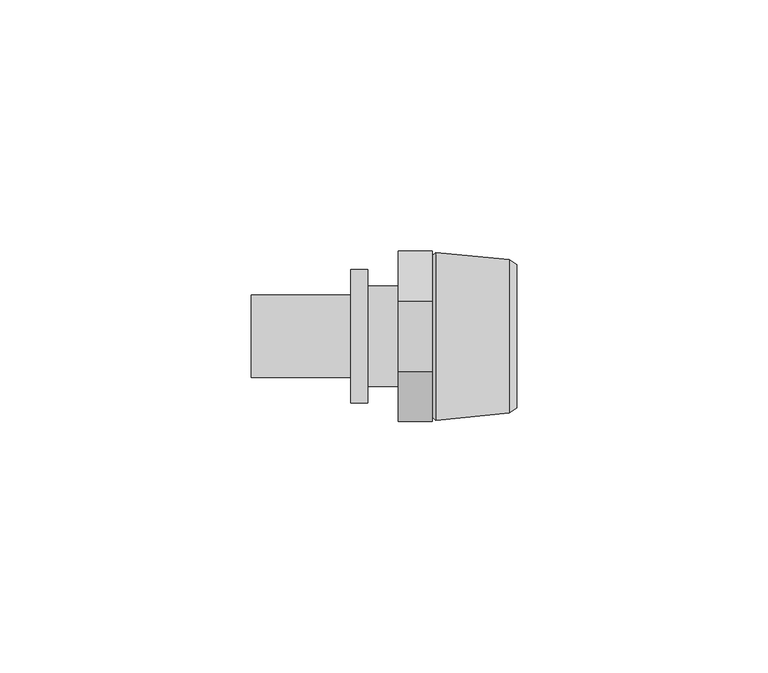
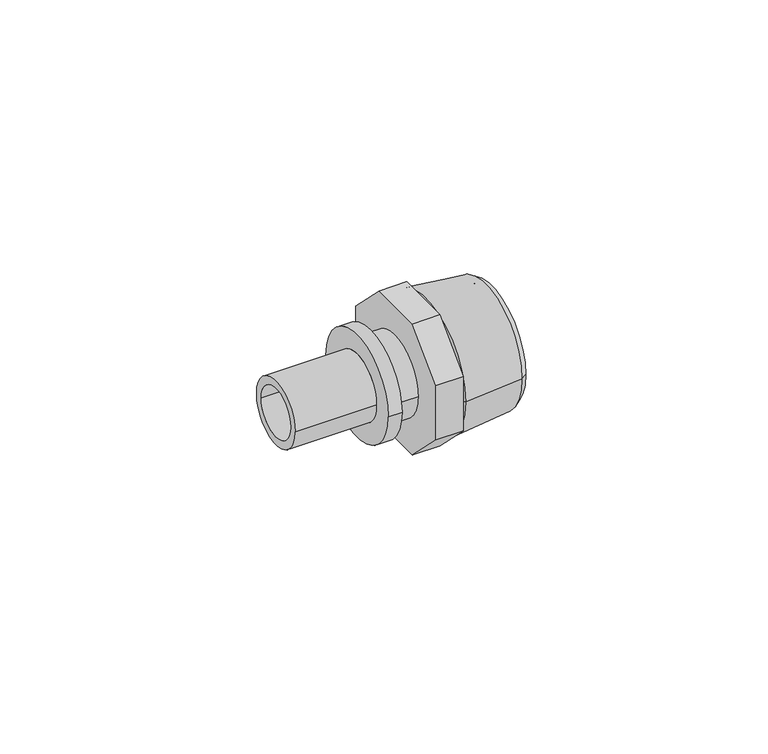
"""IFC4 building model written with IfcOpenShell, lengths in millimetres: pipe fitting geometry, REHAU_RAUTITAN_Adaptor_RX+, with external thread : REHAU_RAUTITAN_Adaptor_RX+, with external thread."""

import ifcopenshell
import ifcopenshell.guid

model = None  # the IFC model being written
_history = None  # IfcOwnerHistory: only IFC2X3 demands one
_inside = {}  # id of a spatial element -> (the spatial element, [elements in it])
_under = {}  # id of a project, library or spatial element -> (it, [spatial elements below it])
_declared = {}  # id of a project -> (the project, [libraries it declares])
_typed = {}  # id of a type object -> (the type object, [elements of that type])
_made_of = {}  # id of a material, layer set ... -> (it, [elements and type objects made of it])


def new_model(schema):
    """Start an empty IFC model of exactly this schema.

    Asked for "IFC4X3", IfcOpenShell would pick the latest addendum, in which some entities
    have other attributes; the version numbers below select the first issue.
    IFC2X3 requires an IfcOwnerHistory on every rooted entity: one is made here for all.
    """
    global model, _history
    if schema == "IFC4X3":
        model = ifcopenshell.file(schema_version=(4, 3, 0, 0))
    else:
        model = ifcopenshell.file(schema=schema)
    _inside.clear()
    _under.clear()
    _declared.clear()
    _typed.clear()
    _made_of.clear()
    _history = None
    if model.schema == "IFC2X3":
        org = make("IfcOrganization", Name="unknown")
        user = make(
            "IfcPersonAndOrganization",
            ThePerson=make("IfcPerson", FamilyName="unknown"),
            TheOrganization=org,
        )
        app = make(
            "IfcApplication",
            ApplicationDeveloper=org,
            Version="unknown",
            ApplicationFullName="unknown",
            ApplicationIdentifier="unknown",
        )
        _history = make(
            "IfcOwnerHistory",
            OwningUser=user,
            OwningApplication=app,
            ChangeAction="ADDED",
            CreationDate=0,
        )
    return model


def make(cls, **values):
    """One entity of the class cls with the attributes given. An attribute that is None is left unset."""
    return model.create_entity(
        cls, **{name: value for name, value in values.items() if value is not None}
    )


def rooted(cls, **values):
    """An entity with a GlobalId (a new one), such as an element, a storey or a relation."""
    return make(cls, GlobalId=ifcopenshell.guid.new(), OwnerHistory=_history, **values)


def si_unit(unit_type, name, prefix=None):
    """IfcSIUnit, for example si_unit("LENGTHUNIT", "METRE", prefix="MILLI")."""
    return make("IfcSIUnit", UnitType=unit_type, Prefix=prefix, Name=name)


def assignment(units):
    """IfcUnitAssignment: the units of a project."""
    return None if units is None else make("IfcUnitAssignment", Units=units)


def point(xyz):
    """IfcCartesianPoint."""
    return None if xyz is None else make("IfcCartesianPoint", Coordinates=xyz)


def direction(xyz):
    """IfcDirection."""
    return None if xyz is None else make("IfcDirection", DirectionRatios=xyz)


def frame(location, z_axis=None, x_axis=None):
    """IfcAxis2Placement3D, a coordinate frame: its origin and axes. An axis left out is left unset."""
    return make(
        "IfcAxis2Placement3D",
        Location=point(location),
        Axis=direction(z_axis),
        RefDirection=direction(x_axis),
    )


def frame_2d(location, x_axis=None):
    """IfcAxis2Placement2D, a coordinate frame in the plane: its origin and x axis."""
    return make(
        "IfcAxis2Placement2D", Location=point(location), RefDirection=direction(x_axis)
    )


def origin():
    """The frame at (0, 0, 0) with its axes left unset."""
    return frame((0.0, 0.0, 0.0))


def origin_2d():
    """The frame at (0, 0) in the plane with its x axis left unset."""
    return frame_2d((0.0, 0.0))


def place(relative_to, where):
    """IfcLocalPlacement: puts the frame where relative to a parent placement (None: the world)."""
    return make(
        "IfcLocalPlacement", PlacementRelTo=relative_to, RelativePlacement=where
    )


def context(
    kind, dimensions, precision=None, world=None, true_north=None, identifier=None
):
    """IfcGeometricRepresentationContext, for example the 3D "Model" context."""
    return make(
        "IfcGeometricRepresentationContext",
        ContextIdentifier=identifier,
        ContextType=kind,
        CoordinateSpaceDimension=dimensions,
        Precision=precision,
        WorldCoordinateSystem=world,
        TrueNorth=true_north,
    )


def project(units=None, contexts=None):
    """IfcProject with its units and contexts."""
    return rooted(
        "IfcProject",
        Name="project",
        RepresentationContexts=contexts,
        UnitsInContext=assignment(units),
    )


def spatial(cls, under=None, at=None, **own):
    """A site, building, storey or space (cls), placed at a placement, below another one or the project."""
    s = rooted(cls, ObjectPlacement=at, **own)
    if under is not None:
        _under.setdefault(under.id(), (under, []))[1].append(s)
    return s


def polyline(points):
    """IfcPolyline through the points."""
    return make("IfcPolyline", Points=[point(p) for p in points])


def circle_curve(where, radius):
    """IfcCircle in the frame where."""
    return make("IfcCircle", Position=where, Radius=radius)


def trimmed(basis, trim1, trim2, sense, master):
    """IfcTrimmedCurve: the piece of a basis curve between two trims."""
    return make(
        "IfcTrimmedCurve",
        BasisCurve=basis,
        Trim1=trim1,
        Trim2=trim2,
        SenseAgreement=sense,
        MasterRepresentation=master,
    )


def segment(curve, same_sense, transition):
    """IfcCompositeCurveSegment."""
    return make(
        "IfcCompositeCurveSegment",
        Transition=transition,
        SameSense=same_sense,
        ParentCurve=curve,
    )


def composite_curve(segments, self_intersect=None):
    """IfcCompositeCurve: segments joined end to end."""
    return make("IfcCompositeCurve", Segments=segments, SelfIntersect=self_intersect)


def outline(outer, holes=None, kind="AREA"):
    """IfcArbitraryClosedProfileDef: a profile drawn as a closed curve; with holes, ...WithVoids."""
    if holes is None:
        return make("IfcArbitraryClosedProfileDef", ProfileType=kind, OuterCurve=outer)
    return make(
        "IfcArbitraryProfileDefWithVoids",
        ProfileType=kind,
        OuterCurve=outer,
        InnerCurves=holes,
    )


def extrude(swept, where, along, depth):
    """IfcExtrudedAreaSolid: the profile swept, set in the frame where, extruded along a direction by depth."""
    return make(
        "IfcExtrudedAreaSolid",
        SweptArea=swept,
        Position=where,
        ExtrudedDirection=direction(along),
        Depth=depth,
    )


def shape(context_of_items, identifier, shape_type, items):
    """IfcShapeRepresentation: the items that make up one representation, for example the "Body"."""
    return make(
        "IfcShapeRepresentation",
        ContextOfItems=context_of_items,
        RepresentationIdentifier=identifier,
        RepresentationType=shape_type,
        Items=items,
    )


def source(mapping_origin, context_of_items, identifier, shape_type, items):
    """IfcRepresentationMap: a shape defined once, which mapped items show again and again."""
    return make(
        "IfcRepresentationMap",
        MappingOrigin=mapping_origin,
        MappedRepresentation=shape(context_of_items, identifier, shape_type, items),
    )


def transform(
    local_origin,
    x_axis=None,
    y_axis=None,
    z_axis=None,
    scale=None,
    scale2=None,
    scale3=None,
    uniform=True,
):
    """IfcCartesianTransformationOperator3D, or its non-uniform kind. x_axis, y_axis, z_axis: its Axis1, 2, 3."""
    if uniform:
        return make(
            "IfcCartesianTransformationOperator3D",
            Axis1=direction(x_axis),
            Axis2=direction(y_axis),
            LocalOrigin=point(local_origin),
            Scale=scale,
            Axis3=direction(z_axis),
        )
    return make(
        "IfcCartesianTransformationOperator3DnonUniform",
        Axis1=direction(x_axis),
        Axis2=direction(y_axis),
        LocalOrigin=point(local_origin),
        Scale=scale,
        Axis3=direction(z_axis),
        Scale2=scale2,
        Scale3=scale3,
    )


def mapped(mapping_source, mapping_target):
    """IfcMappedItem: shows the shape of a source again, moved by a transform."""
    return make(
        "IfcMappedItem", MappingSource=mapping_source, MappingTarget=mapping_target
    )


def made_of(thing, what):
    """Note that an element or type object is made of a material, layer set ...; save() writes the relation."""
    if what is not None:
        _made_of.setdefault(what.id(), (what, []))[1].append(thing)
    return thing


def element(
    cls,
    number,
    at=None,
    inside=None,
    cuts=None,
    type_object=None,
    material=None,
    context=None,
    identifier="Body",
    shape_type=None,
    held_by="IfcProductDefinitionShape",
    body=None,
    shapes=None,
    **own,
):
    """One element of the class cls, such as IfcWall. Its Tag is "e" and its number.

    at: its placement. inside: the storey or other place that contains it. cuts: it is an
    opening in that element (IfcRelVoidsElement). A single representation is given by context,
    identifier, shape_type and body (its items); several are given by shapes. held_by: the class
    of the entity that holds the representations. save() writes the other relations.
    """
    e = rooted(cls, Tag="e%d" % number, ObjectPlacement=at, **own)
    if body is not None:
        shapes = [shape(context, identifier, shape_type, body)]
    if shapes is not None:
        e.Representation = make(held_by, Representations=shapes)
    if inside is not None:
        _inside.setdefault(inside.id(), (inside, []))[1].append(e)
    if cuts is not None:
        rooted(
            "IfcRelVoidsElement", RelatingBuildingElement=cuts, RelatedOpeningElement=e
        )
    if type_object is not None:
        _typed.setdefault(type_object.id(), (type_object, []))[1].append(e)
    return made_of(e, material)


def aggregate(whole, parts):
    """IfcRelAggregates: a whole, such as a stair, and the parts it consists of."""
    return rooted("IfcRelAggregates", RelatingObject=whole, RelatedObjects=parts)


def save(model, path):
    """Write the relations noted so far, then the file.

    IfcRelAggregates (storeys below a building ...), IfcRelContainedInSpatialStructure (elements
    in a storey), IfcRelDefinesByType, IfcRelAssociatesMaterial and IfcRelDeclares: one each for
    every whole, place, type object, material and project.
    """
    for whole, parts in _under.values():
        aggregate(whole, parts)
    for where, things in _inside.values():
        rooted(
            "IfcRelContainedInSpatialStructure",
            RelatedElements=things,
            RelatingStructure=where,
        )
    for kind, things in _typed.values():
        rooted("IfcRelDefinesByType", RelatedObjects=things, RelatingType=kind)
    for what, things in _made_of.values():
        rooted("IfcRelAssociatesMaterial", RelatedObjects=things, RelatingMaterial=what)
    for by, libraries in _declared.values():
        rooted("IfcRelDeclares", RelatingContext=by, RelatedDefinitions=libraries)
    model.write(path)


def plane_surface(at):
    """IfcPlane: the flat surface through the origin of the frame at, square to its z axis."""
    return make("IfcPlane", Position=at)


def cylinder_surface(at, radius):
    """IfcCylindricalSurface: all points at the distance radius from the z axis of the frame at."""
    return make("IfcCylindricalSurface", Position=at, Radius=radius)


def revolved_surface(curve, axis_point, axis_direction):
    """IfcSurfaceOfRevolution: the curve turned about the line through axis_point along axis_direction."""
    return make(
        "IfcSurfaceOfRevolution",
        SweptCurve=make("IfcArbitraryOpenProfileDef", ProfileType="CURVE", Curve=curve),
        AxisPosition=make("IfcAxis1Placement", Location=point(axis_point), Axis=direction(axis_direction)),
    )


def advanced_brep(points, edges, surfaces, faces):
    """IfcAdvancedBrep: a solid bounded by faces that lie on surfaces and meet in shared edges.

    An edge is (start, end): straight between two places in points (the first is 0);
    or (start, end, curve); or (start, end, curve, False) where it runs against its curve.
    A face is (place in surfaces, loops), or (place, loops, False) where it looks against
    its surface's normal. A loop lists edges by number (the first is 1), with a minus sign
    where the edge is run from its end to its start. The first loop is the outer one.
    """
    corners = [point(p) for p in points]
    vertices = [make("IfcVertexPoint", VertexGeometry=c) for c in corners]
    made = []
    for start, end, *more in edges:
        made.append(
            make(
                "IfcEdgeCurve",
                EdgeStart=vertices[start],
                EdgeEnd=vertices[end],
                EdgeGeometry=more[0] if more else make("IfcPolyline", Points=[corners[start], corners[end]]),
                SameSense=more[1] if len(more) > 1 else True,
            )
        )
    hull = []
    for where, loops, *sense in faces:
        bounds = []
        for j, loop in enumerate(loops):
            ring = [make("IfcOrientedEdge", EdgeElement=made[abs(k) - 1], Orientation=k > 0) for k in loop]
            bounds.append(
                make(
                    "IfcFaceOuterBound" if j == 0 else "IfcFaceBound",
                    Bound=make("IfcEdgeLoop", EdgeList=ring),
                    Orientation=True,
                )
            )
        hull.append(make("IfcAdvancedFace", Bounds=bounds, FaceSurface=surfaces[where], SameSense=sense[0] if sense else True))
    return make("IfcAdvancedBrep", Outer=make("IfcClosedShell", CfsFaces=hull))


def pipe_fitting_12e4655d(model_context):
    return source(origin(), model_context, "Body", "SolidModel", [
        advanced_brep(
        [(7.8632803, 12.75, 0.0), (7.8632803, -12.75, 0.0), (23.6, -12.75, 0.0), (23.6, 12.75, 0.0), (6.76, 11.6467197, 0.0), (6.76, -11.6467197, 0.0), (7.5006902, 16.715, 0.0), (7.5006902, -16.715, 0.0), (6.76, -16.1, 0.0), (6.76, 16.1, 0.0), (22.1000007, 15.275, 0.0), (22.1000007, -15.275, 0.0), (23.6, 14.3, 0.0), (23.6, -14.3, 0.0)],
        [
            (0, 1, circle_curve(frame((7.8632803, 0.0, 0.0), z_axis=(-1.0, 0.0, 0.0), x_axis=(0.0, -1.0, 0.0)), 12.75)),
            (1, 2),
            (2, 3, circle_curve(frame((23.6, 0.0, 0.0), z_axis=(1.0, 0.0, 0.0), x_axis=(0.0, -1.0, 0.0)), 12.75)),
            (3, 0),
            (4, 5, circle_curve(frame((6.76, 0.0, 0.0), z_axis=(-1.0, 0.0, 0.0), x_axis=(0.0, -1.0, 0.0)), 11.6467197)),
            (5, 1),
            (0, 4),
            (6, 7, circle_curve(frame((7.5006902, 0.0, 0.0), z_axis=(-1.0, 0.0, 0.0), x_axis=(0.0, -1.0, 0.0)), 16.715)),
            (7, 8),
            (8, 9, circle_curve(frame((6.76, 0.0, 0.0), z_axis=(1.0, 0.0, 0.0), x_axis=(0.0, -1.0, 0.0)), 16.1)),
            (9, 6),
            (10, 11, circle_curve(frame((22.1000007, 0.0, 0.0), z_axis=(-1.0, 0.0, 0.0), x_axis=(0.0, -1.0, 0.0)), 15.275)),
            (11, 7),
            (6, 10),
            (12, 13, circle_curve(frame((23.6, 0.0, 0.0), z_axis=(-1.0, 0.0, 0.0), x_axis=(0.0, -1.0, 0.0)), 14.3)),
            (13, 11),
            (10, 12),
            (1, 0, circle_curve(frame((7.8632803, 0.0, 0.0), z_axis=(-1.0, 0.0, 0.0), x_axis=(0.0, 1.0, 0.0)), 12.75)),
            (3, 2, circle_curve(frame((23.6, 0.0, 0.0), z_axis=(1.0, 0.0, 0.0), x_axis=(0.0, 1.0, 0.0)), 12.75)),
            (5, 4, circle_curve(frame((6.76, 0.0, 0.0), z_axis=(-1.0, 0.0, 0.0), x_axis=(0.0, 1.0, 0.0)), 11.6467197)),
            (8, 9, circle_curve(frame((6.76, 0.0, 0.0), z_axis=(-1.0, 0.0, 0.0), x_axis=(0.0, 1.0, 0.0)), 16.1)),
            (7, 6, circle_curve(frame((7.5006902, 0.0, 0.0), z_axis=(-1.0, 0.0, 0.0), x_axis=(0.0, 1.0, 0.0)), 16.715)),
            (11, 10, circle_curve(frame((22.1000007, 0.0, 0.0), z_axis=(-1.0, 0.0, 0.0), x_axis=(0.0, 1.0, 0.0)), 15.275)),
            (13, 12, circle_curve(frame((23.6, 0.0, 0.0), z_axis=(-1.0, 0.0, 0.0), x_axis=(0.0, 1.0, 0.0)), 14.3)),
        ],
        [
            revolved_surface(polyline([(23.6, -12.75, 0.0), (7.8632803, -12.75, 0.0)]), (0.0, 0.0, 0.0), (1.0, 0.0, 0.0)),
            revolved_surface(polyline([(7.8632803, -12.75, 0.0), (6.76, -11.6467197, 0.0)]), (0.0, 0.0, 0.0), (1.0, 0.0, 0.0)),
            revolved_surface(polyline([(6.76, -16.1, 0.0), (7.5006902, -16.715, 0.0)]), (0.0, 0.0, 0.0), (1.0, 0.0, 0.0)),
            revolved_surface(polyline([(7.5006902, -16.715, 0.0), (22.1000007, -15.275, 0.0)]), (0.0, 0.0, 0.0), (1.0, 0.0, 0.0)),
            revolved_surface(polyline([(22.1000007, -15.275, 0.0), (23.6, -14.3, 0.0)]), (0.0, 0.0, 0.0), (1.0, 0.0, 0.0)),
            revolved_surface(polyline([(23.6, 12.75, 0.0), (7.8632803, 12.75, 0.0)]), (0.0, 0.0, 0.0), (1.0, 0.0, 0.0)),
            revolved_surface(polyline([(7.8632803, 12.75, 0.0), (6.76, 11.6467197, 0.0)]), (0.0, 0.0, 0.0), (1.0, 0.0, 0.0)),
            plane_surface(frame((6.76, 0.0, 0.0), z_axis=(-1.0, 0.0, 0.0), x_axis=(0.0, 1.0, 0.0))),
            revolved_surface(polyline([(6.76, 16.1, 0.0), (7.5006902, 16.715, 0.0)]), (0.0, 0.0, 0.0), (1.0, 0.0, 0.0)),
            revolved_surface(polyline([(7.5006902, 16.715, 0.0), (22.1000007, 15.275, 0.0)]), (0.0, 0.0, 0.0), (1.0, 0.0, 0.0)),
            revolved_surface(polyline([(22.1000007, 15.275, 0.0), (23.6, 14.3, 0.0)]), (0.0, 0.0, 0.0), (1.0, 0.0, 0.0)),
            plane_surface(frame((23.6, 0.0, 0.0), z_axis=(1.0, 0.0, 0.0), x_axis=(0.0, 1.0, 0.0))),
        ],
        [
            (0, [[1, 2, 3, 4]]),
            (1, [[5, 6, -1, 7]]),
            (2, [[8, 9, 10, 11]]),
            (3, [[12, 13, -8, 14]]),
            (4, [[15, 16, -12, 17]]),
            (5, [[18, -4, 19, -2]]),
            (6, [[20, -7, -18, -6]]),
            (7, [[21, -10], [-20, -5]]),
            (8, [[22, -11, -21, -9]]),
            (9, [[23, -14, -22, -13]]),
            (10, [[24, -17, -23, -16]]),
            (11, [[-24, -15], [-19, -3]]),
        ],
    ),
        extrude(outline(polyline([(-7.0416306, -17.0), (-17.0, -7.0416306), (-17.0, 7.0416306), (-7.0416306, 17.0), (7.0416306, 17.0), (17.0, 7.0416306), (17.0, -7.0416306), (7.0416306, -17.0), (-7.0416306, -17.0)]), holes=[composite_curve([segment(trimmed(circle_curve(origin_2d(), 6.25), [point((-6.25, 0.0))], [point((6.25, 0.0))], True, "CARTESIAN"), True, "CONTINUOUS"), segment(trimmed(circle_curve(origin_2d(), 6.25), [point((6.25, 0.0))], [point((-6.25, 0.0))], True, "CARTESIAN"), True, "CONTINUOUS")], self_intersect=False)]), frame((0.0, 0.0, 0.0), z_axis=(1.0, 0.0, 0.0), x_axis=(0.0, 1.0, 0.0)), (0.0, 0.0, 1.0), 6.76),
        advanced_brep(
        [(-29.3, 6.25, 0.0), (-29.3, -6.25, 0.0), (0.0, -6.25, 0.0), (0.0, 6.25, 0.0), (-9.44, 8.225, 0.0), (-9.44, -8.225, 0.0), (-29.3, -8.225, 0.0), (-29.3, 8.225, 0.0), (-6.09, 13.25, 0.0), (-6.09, -13.25, 0.0), (-9.44, -13.25, 0.0), (-9.44, 13.25, 0.0), (0.0, 10.0, 0.0), (0.0, -10.0, 0.0), (-6.09, -10.0, 0.0), (-6.09, 10.0, 0.0)],
        [
            (0, 1, circle_curve(frame((-29.3, 0.0, 0.0), z_axis=(-1.0, 0.0, 0.0), x_axis=(0.0, -1.0, 0.0)), 6.25)),
            (1, 2),
            (2, 3, circle_curve(frame((0.0, 0.0, 0.0), z_axis=(1.0, 0.0, 0.0), x_axis=(0.0, -1.0, 0.0)), 6.25)),
            (3, 0),
            (4, 5, circle_curve(frame((-9.44, 0.0, 0.0), z_axis=(-1.0, 0.0, 0.0), x_axis=(0.0, -1.0, 0.0)), 8.225)),
            (5, 6),
            (6, 7, circle_curve(frame((-29.3, 0.0, 0.0), z_axis=(1.0, 0.0, 0.0), x_axis=(0.0, -1.0, 0.0)), 8.225)),
            (7, 4),
            (8, 9, circle_curve(frame((-6.09, 0.0, 0.0), z_axis=(-1.0, 0.0, 0.0), x_axis=(0.0, -1.0, 0.0)), 13.25)),
            (9, 10),
            (10, 11, circle_curve(frame((-9.44, 0.0, 0.0), z_axis=(1.0, 0.0, 0.0), x_axis=(0.0, -1.0, 0.0)), 13.25)),
            (11, 8),
            (12, 13, circle_curve(frame((0.0, 0.0, 0.0), z_axis=(-1.0, 0.0, 0.0), x_axis=(0.0, -1.0, 0.0)), 10.0)),
            (13, 14),
            (14, 15, circle_curve(frame((-6.09, 0.0, 0.0), z_axis=(1.0, 0.0, 0.0), x_axis=(0.0, -1.0, 0.0)), 10.0)),
            (15, 12),
            (12, 13, circle_curve(frame((0.0, 0.0, 0.0), z_axis=(1.0, 0.0, 0.0), x_axis=(0.0, 1.0, 0.0)), 10.0)),
            (2, 3, circle_curve(frame((0.0, 0.0, 0.0), z_axis=(-1.0, 0.0, 0.0), x_axis=(0.0, 1.0, 0.0)), 6.25)),
            (1, 0, circle_curve(frame((-29.3, 0.0, 0.0), z_axis=(-1.0, 0.0, 0.0), x_axis=(0.0, 1.0, 0.0)), 6.25)),
            (6, 7, circle_curve(frame((-29.3, 0.0, 0.0), z_axis=(-1.0, 0.0, 0.0), x_axis=(0.0, 1.0, 0.0)), 8.225)),
            (5, 4, circle_curve(frame((-9.44, 0.0, 0.0), z_axis=(-1.0, 0.0, 0.0), x_axis=(0.0, 1.0, 0.0)), 8.225)),
            (10, 11, circle_curve(frame((-9.44, 0.0, 0.0), z_axis=(-1.0, 0.0, 0.0), x_axis=(0.0, 1.0, 0.0)), 13.25)),
            (9, 8, circle_curve(frame((-6.09, 0.0, 0.0), z_axis=(-1.0, 0.0, 0.0), x_axis=(0.0, 1.0, 0.0)), 13.25)),
            (14, 15, circle_curve(frame((-6.09, 0.0, 0.0), z_axis=(-1.0, 0.0, 0.0), x_axis=(0.0, 1.0, 0.0)), 10.0)),
        ],
        [
            revolved_surface(polyline([(0.0, -6.25, 0.0), (-29.3, -6.25, 0.0)]), (0.0, 0.0, 0.0), (1.0, 0.0, 0.0)),
            cylinder_surface(frame((0.0, 0.0, 0.0), z_axis=(1.0, 0.0, 0.0), x_axis=(0.0, -1.0, 0.0)), 8.225),
            cylinder_surface(frame((0.0, 0.0, 0.0), z_axis=(1.0, 0.0, 0.0), x_axis=(0.0, -1.0, 0.0)), 13.25),
            cylinder_surface(frame((0.0, 0.0, 0.0), z_axis=(1.0, 0.0, 0.0), x_axis=(0.0, -1.0, 0.0)), 10.0),
            plane_surface(frame((0.0, 0.0, 0.0), z_axis=(1.0, 0.0, 0.0), x_axis=(0.0, 1.0, 0.0))),
            revolved_surface(polyline([(0.0, 6.25, 0.0), (-29.3, 6.25, 0.0)]), (0.0, 0.0, 0.0), (1.0, 0.0, 0.0)),
            plane_surface(frame((-29.3, 0.0, 0.0), z_axis=(-1.0, 0.0, 0.0), x_axis=(0.0, 1.0, 0.0))),
            cylinder_surface(frame((0.0, 0.0, 0.0), z_axis=(1.0, 0.0, 0.0), x_axis=(0.0, 1.0, 0.0)), 8.225),
            plane_surface(frame((-9.44, 0.0, 0.0), z_axis=(-1.0, 0.0, 0.0), x_axis=(0.0, 1.0, 0.0))),
            cylinder_surface(frame((0.0, 0.0, 0.0), z_axis=(1.0, 0.0, 0.0), x_axis=(0.0, 1.0, 0.0)), 13.25),
            plane_surface(frame((-6.09, 0.0, 0.0), z_axis=(1.0, 0.0, 0.0), x_axis=(0.0, 1.0, 0.0))),
            cylinder_surface(frame((0.0, 0.0, 0.0), z_axis=(1.0, 0.0, 0.0), x_axis=(0.0, 1.0, 0.0)), 10.0),
        ],
        [
            (0, [[1, 2, 3, 4]]),
            (1, [[5, 6, 7, 8]]),
            (2, [[9, 10, 11, 12]]),
            (3, [[13, 14, 15, 16]]),
            (4, [[17, -13], [18, -3]]),
            (5, [[19, -4, -18, -2]]),
            (6, [[20, -7], [-19, -1]]),
            (7, [[21, -8, -20, -6]]),
            (8, [[22, -11], [-21, -5]]),
            (9, [[23, -12, -22, -10]]),
            (10, [[-23, -9], [24, -15]]),
            (11, [[-17, -16, -24, -14]]),
        ],
    ),
    ])


if __name__ == "__main__":
    model = new_model("IFC4")
    model_context = context("Model", 3, world=origin())
    ifc_project = project(units=[si_unit("LENGTHUNIT", "METRE", prefix="MILLI")], contexts=[model_context])
    site = spatial("IfcSite", under=ifc_project)
    building = spatial("IfcBuilding", under=site)
    placement = place(None, origin())
    pipe_fitting_shape = pipe_fitting_12e4655d(model_context)
    element("IfcPipeFitting", 1, ObjectType="REHAU_RAUTITAN_Adaptor_RX+, with external thread : REHAU_RAUTITAN_Adaptor_RX+, with external thread", at=placement, inside=building, context=model_context, shape_type="MappedRepresentation", body=[
        mapped(pipe_fitting_shape, transform((0.0, 0.0, 0.0), x_axis=(1.0, 0.0, 0.0), y_axis=(0.0, 1.0, 0.0), z_axis=(0.0, 0.0, 1.0))),
    ])
    save(model, "model.ifc")
